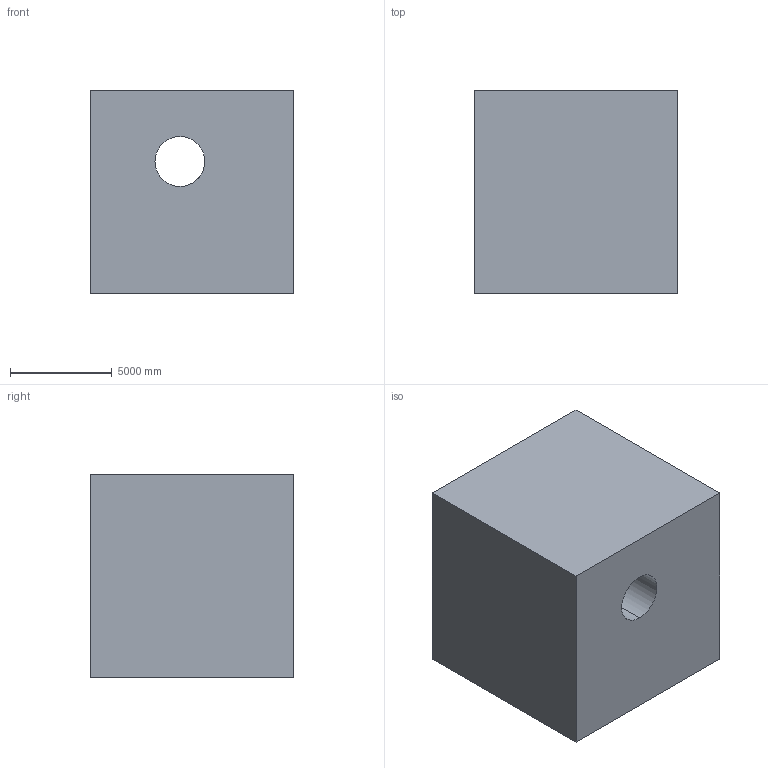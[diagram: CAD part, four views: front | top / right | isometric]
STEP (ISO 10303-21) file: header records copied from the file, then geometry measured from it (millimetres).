
FILE_DESCRIPTION (( 'STEP AP203' ), '1' );
FILE_NAME ('222.STEP', '2022-09-07T12:20:37', ( 'user' ), ( '' ), 'SwSTEP 2.0', 'SolidWorks 2021', '' );
FILE_SCHEMA (( 'CONFIG_CONTROL_DESIGN' ));
Length unit declared in the file: centimetre
Products named in the file (1): 222
Bounding box: 10000 x 10000 x 10000 mm (x, y, z)
Volume: 904455479947.3 mm3; surface area: 743131829.7 mm2
Topology: 1 solids, 1 shells, 14 faces, 33 edges, 22 vertices
Faces by surface type: plane 8, cylinder 6
Entity records: 667 total; most frequent: CARTESIAN_POINT 247, DIRECTION 73, ORIENTED_EDGE 66, EDGE_CURVE 33, AXIS2_PLACEMENT_3D 27, VERTEX_POINT 22, EDGE_LOOP 19, LINE 19
